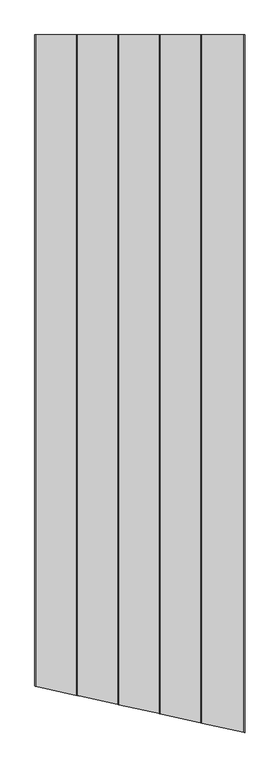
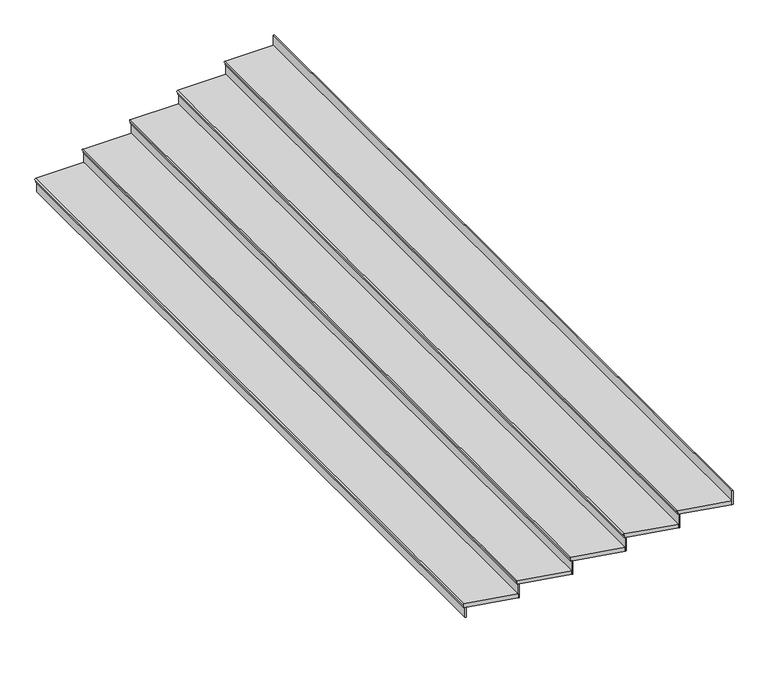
"""IFC4 building model written with IfcOpenShell, lengths in millimetres: stair flight geometry, Wood Steps with 50 mm Tread 20 mm Nosing 13 mm Riser."""

from ifc_helpers import new_model, si_unit, frame, origin, place, context, project, spatial, circle_curve, ellipse_curve, faceted_brep, source, transform, mapped, element, save
from ifc_brep_helpers import plane_surface, cylinder_surface, advanced_brep


def stair_flight_847cdae6(model_context):
    return source(origin(), model_context, "Body", "SolidModel", [
        advanced_brep(
        [(877329.9617053, 73919.6736356, 3159.2941176), (877329.9617053, 73919.6736356, 3179.2941176), (877329.9617053, 83137.2219152, 3179.2941176), (877329.9617053, 83137.2219152, 3159.2941176), (877928.3724773, 83137.2219152, 3179.2941176), (877928.3724773, 73787.0054976, 3179.2941176), (877329.9617053, 83137.2219152, 3129.2941176), (877928.3724773, 83137.2219152, 3129.2941176), (877928.3724773, 73787.0054976, 3129.2941176), (877329.9617053, 73919.6736356, 3129.2941176)],
        [
            (0, 1, ellipse_curve(frame((877329.9617053, 73919.6736356, 3169.2941176), z_axis=(0.21644531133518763, 0.9762947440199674, 0.0), x_axis=(0.9762947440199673, -0.21644531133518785, 0.0)), 10.2428084, 10.0)),
            (1, 2),
            (2, 3, circle_curve(frame((877329.9617053, 83137.2219152, 3169.2941176), z_axis=(0.0, -1.0, 0.0), x_axis=(1.0, 0.0, 0.0)), 10.0)),
            (3, 0),
            (4, 2),
            (1, 5),
            (5, 4),
            (6, 7),
            (7, 8),
            (8, 9),
            (9, 6),
            (4, 7),
            (6, 3),
            (9, 0),
            (8, 5),
        ],
        [
            cylinder_surface(frame((877329.9617053, 73919.6736356, 3169.2941176), z_axis=(0.0, -1.0, 0.0), x_axis=(1.0, 0.0, 0.0)), 10.0),
            plane_surface(frame((855999.6948183, 83137.2219152, 3179.2941176), z_axis=(0.0, 0.0, 1.0), x_axis=(-1.0, 0.0, 0.0))),
            plane_surface(frame((855999.6948183, 83137.2219152, 3129.2941176), z_axis=(0.0, 0.0, -1.0), x_axis=(1.0, 0.0, 0.0))),
            plane_surface(frame((877928.3724773, 83137.2219152, 3179.2941176), z_axis=(0.0, 1.0, 0.0), x_axis=(0.0, 0.0, -1.0))),
            plane_surface(frame((877329.9617053, 83137.2219152, 3179.2941176), z_axis=(-1.0, 0.0, 0.0), x_axis=(0.0, 0.0, -1.0))),
            plane_surface(frame((877329.9617053, 73919.6736356, 3179.2941176), z_axis=(-0.21644531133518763, -0.9762947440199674, 0.0), x_axis=(0.0, 0.0, -1.0))),
            plane_surface(frame((877928.3724773, 73787.0054976, 3179.2941176), z_axis=(1.0, 0.0, 0.0), x_axis=(0.0, 0.0, -1.0))),
        ],
        [
            (0, [[1, 2, 3, 4]]),
            (1, [[5, -2, 6, 7]]),
            (2, [[8, 9, 10, 11]]),
            (3, [[-5, 12, -8, 13, -3]]),
            (4, [[-11, 14, -4, -13]]),
            (5, [[-6, -1, -14, -10, 15]]),
            (6, [[-7, -15, -9, -12]]),
        ],
    ),
        faceted_brep([(877339.9617053, 73917.4566277, 3129.2941176), (877339.9617053, 73917.4566277, 3000.0), (877352.4617053, 73914.6853679, 3000.0), (877352.4617053, 73914.6853679, 3129.2941176), (877339.9617053, 83137.2219152, 3129.2941176), (877352.4617053, 83137.2219152, 3129.2941176), (877352.4617053, 83137.2219152, 3000.0), (877339.9617053, 83137.2219152, 3000.0)], [[[0, 1, 2, 3]], [[4, 5, 6, 7]], [[1, 0, 4, 7]], [[2, 1, 7, 6]], [[3, 2, 6, 5]], [[0, 3, 5, 4]]]),
        faceted_brep([(877928.3724773, 73787.0054976, 3308.5882353), (877928.3724773, 73787.0054976, 3129.2941176), (877940.8724773, 73784.2342378, 3129.2941176), (877940.8724773, 73784.2342378, 3308.5882353), (877928.3724773, 83137.2219152, 3308.5882353), (877940.8724773, 83137.2219152, 3308.5882353), (877940.8724773, 83137.2219152, 3129.2941176), (877928.3724773, 83137.2219152, 3129.2941176)], [[[0, 1, 2, 3]], [[4, 5, 6, 7]], [[1, 0, 4, 7]], [[2, 1, 7, 6]], [[3, 2, 6, 5]], [[0, 3, 5, 4]]]),
        advanced_brep(
        [(878516.7832493, 83137.2219152, 3358.5882353), (877918.3724773, 83137.2219152, 3358.5882353), (877918.3724773, 73789.2225054, 3358.5882353), (878516.7832493, 73656.5543674, 3358.5882353), (877918.3724773, 83137.2219152, 3308.5882353), (878516.7832493, 83137.2219152, 3308.5882353), (878516.7832493, 73656.5543674, 3308.5882353), (877918.3724773, 73789.2225054, 3308.5882353), (877918.3724773, 83137.2219152, 3338.5882353), (877918.3724773, 73789.2225054, 3338.5882353)],
        [
            (0, 1),
            (1, 2),
            (2, 3),
            (3, 0),
            (4, 5),
            (5, 6),
            (6, 7),
            (7, 4),
            (0, 5),
            (4, 8),
            (8, 1, circle_curve(frame((877918.3724773, 83137.2219152, 3348.5882353), z_axis=(0.0, 1.0, 0.0), x_axis=(1.0, 0.0, 0.0)), 10.0)),
            (7, 9),
            (9, 8),
            (2, 9, ellipse_curve(frame((877918.3724773, 73789.2225054, 3348.5882353), z_axis=(-0.21644531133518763, -0.9762947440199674, 0.0), x_axis=(0.9762947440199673, -0.21644531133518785, 0.0)), 10.2428084, 10.0)),
            (6, 3),
        ],
        [
            plane_surface(frame((855999.6948183, 83137.2219152, 3358.5882353), z_axis=(0.0, 0.0, 1.0), x_axis=(-1.0, 0.0, 0.0))),
            plane_surface(frame((855999.6948183, 83137.2219152, 3308.5882353), z_axis=(0.0, 0.0, -1.0), x_axis=(1.0, 0.0, 0.0))),
            plane_surface(frame((878516.7832493, 83137.2219152, 3358.5882353), z_axis=(0.0, 1.0, 0.0), x_axis=(0.0, 0.0, -1.0))),
            plane_surface(frame((877918.3724773, 83137.2219152, 3358.5882353), z_axis=(-1.0, 0.0, 0.0), x_axis=(0.0, 0.0, -1.0))),
            plane_surface(frame((877918.3724773, 73789.2225054, 3358.5882353), z_axis=(-0.21644531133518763, -0.9762947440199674, 0.0), x_axis=(0.0, 0.0, -1.0))),
            plane_surface(frame((878516.7832493, 73656.5543674, 3358.5882353), z_axis=(1.0, 0.0, 0.0), x_axis=(0.0, 0.0, -1.0))),
            cylinder_surface(frame((877918.3724773, 73789.2225054, 3348.5882353), z_axis=(0.0, -1.0, 0.0), x_axis=(1.0, 0.0, 0.0)), 10.0),
        ],
        [
            (0, [[1, 2, 3, 4]]),
            (1, [[5, 6, 7, 8]]),
            (2, [[-1, 9, -5, 10, 11]]),
            (3, [[-8, 12, 13, -10]]),
            (4, [[-3, 14, -12, -7, 15]]),
            (5, [[-4, -15, -6, -9]]),
            (6, [[-14, -2, -11, -13]]),
        ],
    ),
        faceted_brep([(878516.7832493, 73656.5543674, 3487.8823529), (878516.7832493, 73656.5543674, 3308.5882353), (878529.2832493, 73653.7831076, 3308.5882353), (878529.2832493, 73653.7831076, 3487.8823529), (878516.7832493, 83137.2219152, 3487.8823529), (878529.2832493, 83137.2219152, 3487.8823529), (878529.2832493, 83137.2219152, 3308.5882353), (878516.7832493, 83137.2219152, 3308.5882353)], [[[0, 1, 2, 3]], [[4, 5, 6, 7]], [[1, 0, 4, 7]], [[2, 1, 7, 6]], [[3, 2, 6, 5]], [[0, 3, 5, 4]]]),
        advanced_brep(
        [(879105.1940212, 83137.2219152, 3537.8823529), (878506.7832493, 83137.2219152, 3537.8823529), (878506.7832493, 73658.7713753, 3537.8823529), (879105.1940212, 73526.1032372, 3537.8823529), (878506.7832493, 83137.2219152, 3487.8823529), (879105.1940212, 83137.2219152, 3487.8823529), (879105.1940212, 73526.1032372, 3487.8823529), (878506.7832493, 73658.7713753, 3487.8823529), (878506.7832493, 83137.2219152, 3517.8823529), (878506.7832493, 73658.7713753, 3517.8823529)],
        [
            (0, 1),
            (1, 2),
            (2, 3),
            (3, 0),
            (4, 5),
            (5, 6),
            (6, 7),
            (7, 4),
            (0, 5),
            (4, 8),
            (8, 1, circle_curve(frame((878506.7832493, 83137.2219152, 3527.8823529), z_axis=(0.0, 1.0, 0.0), x_axis=(1.0, 0.0, 0.0)), 10.0)),
            (7, 9),
            (9, 8),
            (2, 9, ellipse_curve(frame((878506.7832493, 73658.7713753, 3527.8823529), z_axis=(-0.21644531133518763, -0.9762947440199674, 0.0), x_axis=(0.9762947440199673, -0.21644531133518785, 0.0)), 10.2428084, 10.0)),
            (6, 3),
        ],
        [
            plane_surface(frame((855999.6948183, 83137.2219152, 3537.8823529), z_axis=(0.0, 0.0, 1.0), x_axis=(-1.0, 0.0, 0.0))),
            plane_surface(frame((855999.6948183, 83137.2219152, 3487.8823529), z_axis=(0.0, 0.0, -1.0), x_axis=(1.0, 0.0, 0.0))),
            plane_surface(frame((879105.1940212, 83137.2219152, 3537.8823529), z_axis=(0.0, 1.0, 0.0), x_axis=(0.0, 0.0, -1.0))),
            plane_surface(frame((878506.7832493, 83137.2219152, 3537.8823529), z_axis=(-1.0, 0.0, 0.0), x_axis=(0.0, 0.0, -1.0))),
            plane_surface(frame((878506.7832493, 73658.7713753, 3537.8823529), z_axis=(-0.21644531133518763, -0.9762947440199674, 0.0), x_axis=(0.0, 0.0, -1.0))),
            plane_surface(frame((879105.1940212, 73526.1032372, 3537.8823529), z_axis=(1.0, 0.0, 0.0), x_axis=(0.0, 0.0, -1.0))),
            cylinder_surface(frame((878506.7832493, 73658.7713753, 3527.8823529), z_axis=(0.0, -1.0, 0.0), x_axis=(1.0, 0.0, 0.0)), 10.0),
        ],
        [
            (0, [[1, 2, 3, 4]]),
            (1, [[5, 6, 7, 8]]),
            (2, [[-1, 9, -5, 10, 11]]),
            (3, [[-8, 12, 13, -10]]),
            (4, [[-3, 14, -12, -7, 15]]),
            (5, [[-4, -15, -6, -9]]),
            (6, [[-14, -2, -11, -13]]),
        ],
    ),
        faceted_brep([(879105.1940212, 73526.1032372, 3667.1764706), (879105.1940212, 73526.1032372, 3487.8823529), (879117.6940212, 73523.3319774, 3487.8823529), (879117.6940212, 73523.3319774, 3667.1764706), (879105.1940212, 83137.2219152, 3667.1764706), (879117.6940212, 83137.2219152, 3667.1764706), (879117.6940212, 83137.2219152, 3487.8823529), (879105.1940212, 83137.2219152, 3487.8823529)], [[[0, 1, 2, 3]], [[4, 5, 6, 7]], [[1, 0, 4, 7]], [[2, 1, 7, 6]], [[3, 2, 6, 5]], [[0, 3, 5, 4]]]),
        advanced_brep(
        [(879693.6047932, 83137.2219152, 3717.1764706), (879095.1940212, 83137.2219152, 3717.1764706), (879095.1940212, 73528.3202451, 3717.1764706), (879693.6047932, 73395.6521071, 3717.1764706), (879095.1940212, 83137.2219152, 3667.1764706), (879693.6047932, 83137.2219152, 3667.1764706), (879693.6047932, 73395.6521071, 3667.1764706), (879095.1940212, 73528.3202451, 3667.1764706), (879095.1940212, 83137.2219152, 3697.1764706), (879095.1940212, 73528.3202451, 3697.1764706)],
        [
            (0, 1),
            (1, 2),
            (2, 3),
            (3, 0),
            (4, 5),
            (5, 6),
            (6, 7),
            (7, 4),
            (0, 5),
            (4, 8),
            (8, 1, circle_curve(frame((879095.1940212, 83137.2219152, 3707.1764706), z_axis=(0.0, 1.0, 0.0), x_axis=(1.0, 0.0, 0.0)), 10.0)),
            (7, 9),
            (9, 8),
            (2, 9, ellipse_curve(frame((879095.1940212, 73528.3202451, 3707.1764706), z_axis=(-0.21644531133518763, -0.9762947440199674, 0.0), x_axis=(0.9762947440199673, -0.21644531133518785, 0.0)), 10.2428084, 10.0)),
            (6, 3),
        ],
        [
            plane_surface(frame((855999.6948183, 83137.2219152, 3717.1764706), z_axis=(0.0, 0.0, 1.0), x_axis=(-1.0, 0.0, 0.0))),
            plane_surface(frame((855999.6948183, 83137.2219152, 3667.1764706), z_axis=(0.0, 0.0, -1.0), x_axis=(1.0, 0.0, 0.0))),
            plane_surface(frame((879693.6047932, 83137.2219152, 3717.1764706), z_axis=(0.0, 1.0, 0.0), x_axis=(0.0, 0.0, -1.0))),
            plane_surface(frame((879095.1940212, 83137.2219152, 3717.1764706), z_axis=(-1.0, 0.0, 0.0), x_axis=(0.0, 0.0, -1.0))),
            plane_surface(frame((879095.1940212, 73528.3202451, 3717.1764706), z_axis=(-0.21644531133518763, -0.9762947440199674, 0.0), x_axis=(0.0, 0.0, -1.0))),
            plane_surface(frame((879693.6047932, 73395.6521071, 3717.1764706), z_axis=(1.0, 0.0, 0.0), x_axis=(0.0, 0.0, -1.0))),
            cylinder_surface(frame((879095.1940212, 73528.3202451, 3707.1764706), z_axis=(0.0, -1.0, 0.0), x_axis=(1.0, 0.0, 0.0)), 10.0),
        ],
        [
            (0, [[1, 2, 3, 4]]),
            (1, [[5, 6, 7, 8]]),
            (2, [[-1, 9, -5, 10, 11]]),
            (3, [[-8, 12, 13, -10]]),
            (4, [[-3, 14, -12, -7, 15]]),
            (5, [[-4, -15, -6, -9]]),
            (6, [[-14, -2, -11, -13]]),
        ],
    ),
        faceted_brep([(879693.6047932, 73395.6521071, 3846.4705882), (879693.6047932, 73395.6521071, 3667.1764706), (879706.1047932, 73392.8808473, 3667.1764706), (879706.1047932, 73392.8808473, 3846.4705882), (879693.6047932, 83137.2219152, 3846.4705882), (879706.1047932, 83137.2219152, 3846.4705882), (879706.1047932, 83137.2219152, 3667.1764706), (879693.6047932, 83137.2219152, 3667.1764706)], [[[0, 1, 2, 3]], [[4, 5, 6, 7]], [[1, 0, 4, 7]], [[2, 1, 7, 6]], [[3, 2, 6, 5]], [[0, 3, 5, 4]]]),
        faceted_brep([(880282.0155652, 73265.2009769, 4025.7647059), (880282.0155652, 73265.2009769, 3846.4705882), (880294.5155652, 73262.4297171, 3846.4705882), (880294.5155652, 73262.4297171, 4025.7647059), (880282.0155652, 83137.2219152, 4025.7647059), (880294.5155652, 83137.2219152, 4025.7647059), (880294.5155652, 83137.2219152, 3846.4705882), (880282.0155652, 83137.2219152, 3846.4705882)], [[[0, 1, 2, 3]], [[4, 5, 6, 7]], [[1, 0, 4, 7]], [[2, 1, 7, 6]], [[3, 2, 6, 5]], [[0, 3, 5, 4]]]),
        advanced_brep(
        [(880282.0155652, 83137.2219152, 3896.4705882), (879683.6047932, 83137.2219152, 3896.4705882), (879683.6047932, 73397.8691149, 3896.4705882), (880282.0155652, 73265.2009769, 3896.4705882), (879683.6047932, 83137.2219152, 3846.4705882), (880282.0155652, 83137.2219152, 3846.4705882), (880282.0155652, 73265.2009769, 3846.4705882), (879683.6047932, 73397.8691149, 3846.4705882), (879683.6047932, 83137.2219152, 3876.4705882), (879683.6047932, 73397.8691149, 3876.4705882)],
        [
            (0, 1),
            (1, 2),
            (2, 3),
            (3, 0),
            (4, 5),
            (5, 6),
            (6, 7),
            (7, 4),
            (0, 5),
            (4, 8),
            (8, 1, circle_curve(frame((879683.6047932, 83137.2219152, 3886.4705882), z_axis=(0.0, 1.0, 0.0), x_axis=(1.0, 0.0, 0.0)), 10.0)),
            (7, 9),
            (9, 8),
            (2, 9, ellipse_curve(frame((879683.6047932, 73397.8691149, 3886.4705882), z_axis=(-0.21644531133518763, -0.9762947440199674, 0.0), x_axis=(0.9762947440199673, -0.21644531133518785, 0.0)), 10.2428084, 10.0)),
            (6, 3),
        ],
        [
            plane_surface(frame((855999.6948183, 83137.2219152, 3896.4705882), z_axis=(0.0, 0.0, 1.0), x_axis=(-1.0, 0.0, 0.0))),
            plane_surface(frame((855999.6948183, 83137.2219152, 3846.4705882), z_axis=(0.0, 0.0, -1.0), x_axis=(1.0, 0.0, 0.0))),
            plane_surface(frame((880282.0155652, 83137.2219152, 3896.4705882), z_axis=(0.0, 1.0, 0.0), x_axis=(0.0, 0.0, -1.0))),
            plane_surface(frame((879683.6047932, 83137.2219152, 3896.4705882), z_axis=(-1.0, 0.0, 0.0), x_axis=(0.0, 0.0, -1.0))),
            plane_surface(frame((879683.6047932, 73397.8691149, 3896.4705882), z_axis=(-0.21644531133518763, -0.9762947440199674, 0.0), x_axis=(0.0, 0.0, -1.0))),
            plane_surface(frame((880282.0155652, 73265.2009769, 3896.4705882), z_axis=(1.0, 0.0, 0.0), x_axis=(0.0, 0.0, -1.0))),
            cylinder_surface(frame((879683.6047932, 73397.8691149, 3886.4705882), z_axis=(0.0, -1.0, 0.0), x_axis=(1.0, 0.0, 0.0)), 10.0),
        ],
        [
            (0, [[1, 2, 3, 4]]),
            (1, [[5, 6, 7, 8]]),
            (2, [[-1, 9, -5, 10, 11]]),
            (3, [[-8, 12, 13, -10]]),
            (4, [[-3, 14, -12, -7, 15]]),
            (5, [[-4, -15, -6, -9]]),
            (6, [[-14, -2, -11, -13]]),
        ],
    ),
    ])


if __name__ == "__main__":
    model = new_model("IFC4")
    model_context = context("Model", 3, world=origin())
    ifc_project = project(units=[si_unit("LENGTHUNIT", "METRE", prefix="MILLI")], contexts=[model_context])
    site = spatial("IfcSite", under=ifc_project)
    building = spatial("IfcBuilding", under=site)
    placement = place(None, origin())
    stair_flight_shape = stair_flight_847cdae6(model_context)
    element("IfcStairFlight", 1, ObjectType="Wood Steps with 50 mm Tread 20 mm Nosing 13 mm Riser", at=placement, inside=building, context=model_context, shape_type="MappedRepresentation", body=[
        mapped(stair_flight_shape, transform((0.0, 0.0, 0.0), x_axis=(1.0, 0.0, 0.0), y_axis=(0.0, 1.0, 0.0), z_axis=(0.0, 0.0, 1.0))),
    ])
    save(model, "model.ifc")
